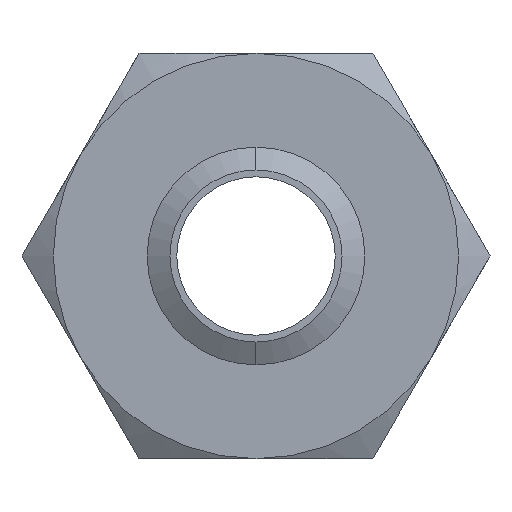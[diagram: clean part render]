
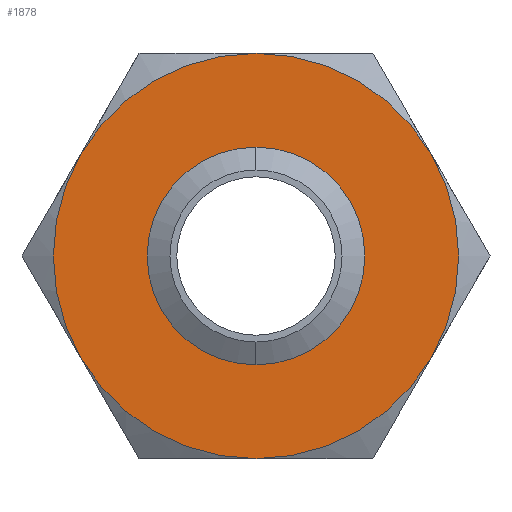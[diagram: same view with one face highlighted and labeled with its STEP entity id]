
A CAD part, front view. The second image highlights one B-rep face of the part: STEP entity #1878.
In plain terms, the highlighted planar face has unit normal (0, -1, 0).
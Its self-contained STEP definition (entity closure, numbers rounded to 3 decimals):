
#246 = DIRECTION ( 'NONE',  ( 0., 0., -1. ) ) ;
#247 = DIRECTION ( 'NONE',  ( 0., -1., 0. ) ) ;
#248 = CARTESIAN_POINT ( 'NONE',  ( 0., 0., 0. ) ) ;
#249 = AXIS2_PLACEMENT_3D ( 'NONE', #248, #247, #246 ) ;
#250 = CIRCLE ( 'NONE', #249, 13.802 ) ;
#251 = CARTESIAN_POINT ( 'NONE',  ( 0., 0., -13.802 ) ) ;
#600 = CARTESIAN_POINT ( 'NONE',  ( 0., 0., 13.802 ) ) ;
#808 = FACE_OUTER_BOUND ( 'NONE', #1873, .T. ) ;
#809 = DIRECTION ( 'NONE',  ( 0., 0., 1. ) ) ;
#810 = DIRECTION ( 'NONE',  ( 0., 1., 0. ) ) ;
#811 = CARTESIAN_POINT ( 'NONE',  ( 0., 0., 0. ) ) ;
#812 = AXIS2_PLACEMENT_3D ( 'NONE', #811, #810, #809 ) ;
#813 = CIRCLE ( 'NONE', #812, 32.5 ) ;
#814 = PLANE ( 'NONE',  #871 ) ;
#815 = DIRECTION ( 'NONE',  ( 0., 0., 1. ) ) ;
#816 = DIRECTION ( 'NONE',  ( 0., 1., 0. ) ) ;
#817 = CARTESIAN_POINT ( 'NONE',  ( 0., 0., 0. ) ) ;
#818 = AXIS2_PLACEMENT_3D ( 'NONE', #817, #816, #815 ) ;
#819 = CIRCLE ( 'NONE', #818, 32.5 ) ;
#820 = CARTESIAN_POINT ( 'NONE',  ( -28.146, 0., -16.25 ) ) ;
#821 = CARTESIAN_POINT ( 'NONE',  ( -28.146, 0., 16.25 ) ) ;
#822 = CARTESIAN_POINT ( 'NONE',  ( 28.146, 0., 16.25 ) ) ;
#823 = DIRECTION ( 'NONE',  ( 0., 0., 1. ) ) ;
#824 = DIRECTION ( 'NONE',  ( 0., 1., 0. ) ) ;
#825 = CARTESIAN_POINT ( 'NONE',  ( 0., 0., 0. ) ) ;
#826 = AXIS2_PLACEMENT_3D ( 'NONE', #825, #824, #823 ) ;
#827 = CIRCLE ( 'NONE', #826, 32.5 ) ;
#828 = CARTESIAN_POINT ( 'NONE',  ( 0., 0., 32.5 ) ) ;
#868 = DIRECTION ( 'NONE',  ( 0., 0., 1. ) ) ;
#869 = DIRECTION ( 'NONE',  ( 0., 1., 0. ) ) ;
#870 = CARTESIAN_POINT ( 'NONE',  ( 18.764, 0., -32.5 ) ) ;
#871 = AXIS2_PLACEMENT_3D ( 'NONE', #870, #869, #868 ) ;
#872 = FACE_BOUND ( 'NONE', #2123, .T. ) ;
#1215 = CARTESIAN_POINT ( 'NONE',  ( 28.146, 0., -16.25 ) ) ;
#1216 = CARTESIAN_POINT ( 'NONE',  ( 0., 0., -32.5 ) ) ;
#1217 = DIRECTION ( 'NONE',  ( 0., 0., 1. ) ) ;
#1218 = DIRECTION ( 'NONE',  ( 0., 1., 0. ) ) ;
#1219 = CARTESIAN_POINT ( 'NONE',  ( 0., 0., 0. ) ) ;
#1220 = AXIS2_PLACEMENT_3D ( 'NONE', #1219, #1218, #1217 ) ;
#1221 = CIRCLE ( 'NONE', #1220, 32.5 ) ;
#1300 = DIRECTION ( 'NONE',  ( 0., 0., 1. ) ) ;
#1301 = DIRECTION ( 'NONE',  ( 0., 1., 0. ) ) ;
#1302 = CARTESIAN_POINT ( 'NONE',  ( 0., 0., 0. ) ) ;
#1303 = AXIS2_PLACEMENT_3D ( 'NONE', #1302, #1301, #1300 ) ;
#1304 = CIRCLE ( 'NONE', #1303, 32.5 ) ;
#1305 = DIRECTION ( 'NONE',  ( 0., 0., -1. ) ) ;
#1306 = DIRECTION ( 'NONE',  ( 0., -1., 0. ) ) ;
#1307 = CARTESIAN_POINT ( 'NONE',  ( 0., 0., 0. ) ) ;
#1308 = AXIS2_PLACEMENT_3D ( 'NONE', #1307, #1306, #1305 ) ;
#1309 = CIRCLE ( 'NONE', #1308, 13.802 ) ;
#1349 = DIRECTION ( 'NONE',  ( 0., 0., 1. ) ) ;
#1350 = DIRECTION ( 'NONE',  ( 0., 1., 0. ) ) ;
#1351 = CARTESIAN_POINT ( 'NONE',  ( 0., 0., 0. ) ) ;
#1352 = AXIS2_PLACEMENT_3D ( 'NONE', #1351, #1350, #1349 ) ;
#1356 = CIRCLE ( 'NONE', #1352, 32.5 ) ;
#1606 = VERTEX_POINT ( 'NONE', #251 ) ;
#1608 = EDGE_CURVE ( 'NONE', #1606, #1749, #250, .T. ) ;
#1749 = VERTEX_POINT ( 'NONE', #600 ) ;
#1867 = EDGE_CURVE ( 'NONE', #1874, #1870, #827, .T. ) ;
#1868 = VERTEX_POINT ( 'NONE', #828 ) ;
#1869 = VERTEX_POINT ( 'NONE', #822 ) ;
#1870 = VERTEX_POINT ( 'NONE', #821 ) ;
#1871 = ORIENTED_EDGE ( 'NONE', *, *, #1867, .F. ) ;
#1872 = ORIENTED_EDGE ( 'NONE', *, *, #1876, .F. ) ;
#1873 = EDGE_LOOP ( 'NONE', ( #1875, #1872, #1871, #2118, #2070, #2121 ) ) ;
#1874 = VERTEX_POINT ( 'NONE', #820 ) ;
#1875 = ORIENTED_EDGE ( 'NONE', *, *, #1877, .F. ) ;
#1876 = EDGE_CURVE ( 'NONE', #1870, #1868, #819, .T. ) ;
#1877 = EDGE_CURVE ( 'NONE', #1868, #1869, #813, .T. ) ;
#1878 = ADVANCED_FACE ( 'NONE', ( #808, #872 ), #814, .F. ) ;
#2069 = EDGE_CURVE ( 'NONE', #2072, #2071, #1221, .T. ) ;
#2070 = ORIENTED_EDGE ( 'NONE', *, *, #2069, .F. ) ;
#2071 = VERTEX_POINT ( 'NONE', #1216 ) ;
#2072 = VERTEX_POINT ( 'NONE', #1215 ) ;
#2115 = ORIENTED_EDGE ( 'NONE', *, *, #1608, .F. ) ;
#2116 = ORIENTED_EDGE ( 'NONE', *, *, #2117, .F. ) ;
#2117 = EDGE_CURVE ( 'NONE', #1749, #1606, #1309, .T. ) ;
#2118 = ORIENTED_EDGE ( 'NONE', *, *, #2119, .F. ) ;
#2119 = EDGE_CURVE ( 'NONE', #2071, #1874, #1304, .T. ) ;
#2121 = ORIENTED_EDGE ( 'NONE', *, *, #2122, .F. ) ;
#2122 = EDGE_CURVE ( 'NONE', #1869, #2072, #1356, .T. ) ;
#2123 = EDGE_LOOP ( 'NONE', ( #2115, #2116 ) ) ;
